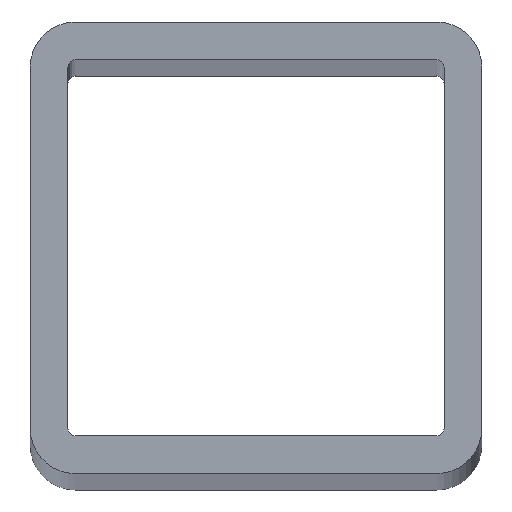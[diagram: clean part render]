
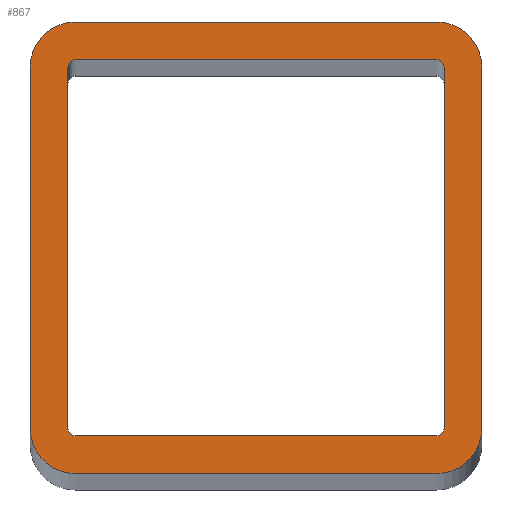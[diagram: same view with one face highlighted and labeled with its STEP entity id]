
A CAD part, top view. The second image highlights one B-rep face of the part: STEP entity #867.
In plain terms, the highlighted planar face has unit normal (0, 0, 1).
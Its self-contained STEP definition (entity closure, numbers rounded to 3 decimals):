
#440=CARTESIAN_POINT('',(-24.,24.,625.));
#441=DIRECTION('',(0.,0.,1.));
#442=DIRECTION('',(0.,1.,0.));
#443=AXIS2_PLACEMENT_3D('',#440,#441,#442);
#448=DIRECTION('',(-1.,0.,0.));
#449=VECTOR('',#448,48.);
#450=CARTESIAN_POINT('',(24.,30.,625.));
#451=LINE('',#450,#449);
#455=CARTESIAN_POINT('',(24.,24.,625.));
#456=DIRECTION('',(0.,0.,1.));
#457=DIRECTION('',(1.,0.,0.));
#458=AXIS2_PLACEMENT_3D('',#455,#456,#457);
#463=DIRECTION('',(0.,1.,0.));
#464=VECTOR('',#463,48.);
#465=CARTESIAN_POINT('',(30.,-24.,625.));
#466=LINE('',#465,#464);
#470=CARTESIAN_POINT('',(24.,-24.,625.));
#471=DIRECTION('',(0.,0.,1.));
#472=DIRECTION('',(0.,-1.,0.));
#473=AXIS2_PLACEMENT_3D('',#470,#471,#472);
#478=DIRECTION('',(1.,0.,0.));
#479=VECTOR('',#478,48.);
#480=CARTESIAN_POINT('',(-24.,-30.,625.));
#481=LINE('',#480,#479);
#485=CARTESIAN_POINT('',(-24.,-24.,625.));
#486=DIRECTION('',(0.,0.,1.));
#487=DIRECTION('',(-1.,0.,0.));
#488=AXIS2_PLACEMENT_3D('',#485,#486,#487);
#493=DIRECTION('',(0.,-1.,0.));
#494=VECTOR('',#493,48.);
#495=CARTESIAN_POINT('',(-30.,24.,625.));
#496=LINE('',#495,#494);
#500=DIRECTION('',(1.,0.,0.));
#501=VECTOR('',#500,48.);
#502=CARTESIAN_POINT('',(-24.,25.,625.));
#503=LINE('',#502,#501);
#507=CARTESIAN_POINT('',(-24.,24.,625.));
#508=DIRECTION('',(0.,0.,-1.));
#509=DIRECTION('',(-1.,0.,0.));
#510=AXIS2_PLACEMENT_3D('',#507,#508,#509);
#515=DIRECTION('',(0.,1.,0.));
#516=VECTOR('',#515,48.);
#517=CARTESIAN_POINT('',(-25.,-24.,625.));
#518=LINE('',#517,#516);
#522=CARTESIAN_POINT('',(-24.,-24.,625.));
#523=DIRECTION('',(0.,0.,-1.));
#524=DIRECTION('',(0.,-1.,0.));
#525=AXIS2_PLACEMENT_3D('',#522,#523,#524);
#530=DIRECTION('',(-1.,0.,0.));
#531=VECTOR('',#530,48.);
#532=CARTESIAN_POINT('',(24.,-25.,625.));
#533=LINE('',#532,#531);
#537=CARTESIAN_POINT('',(24.,-24.,625.));
#538=DIRECTION('',(0.,0.,-1.));
#539=DIRECTION('',(1.,0.,0.));
#540=AXIS2_PLACEMENT_3D('',#537,#538,#539);
#545=DIRECTION('',(0.,-1.,0.));
#546=VECTOR('',#545,48.);
#547=CARTESIAN_POINT('',(25.,24.,625.));
#548=LINE('',#547,#546);
#552=CARTESIAN_POINT('',(24.,24.,625.));
#553=DIRECTION('',(0.,0.,-1.));
#554=DIRECTION('',(0.,1.,0.));
#555=AXIS2_PLACEMENT_3D('',#552,#553,#554);
#648=CARTESIAN_POINT('',(-24.,30.,625.));
#649=CARTESIAN_POINT('',(-30.,24.,625.));
#650=VERTEX_POINT('',#648);
#651=VERTEX_POINT('',#649);
#652=CARTESIAN_POINT('',(-30.,-24.,625.));
#653=VERTEX_POINT('',#652);
#654=CARTESIAN_POINT('',(-24.,-30.,625.));
#655=VERTEX_POINT('',#654);
#656=CARTESIAN_POINT('',(24.,-30.,625.));
#657=VERTEX_POINT('',#656);
#658=CARTESIAN_POINT('',(30.,-24.,625.));
#659=VERTEX_POINT('',#658);
#660=CARTESIAN_POINT('',(30.,24.,625.));
#661=VERTEX_POINT('',#660);
#662=CARTESIAN_POINT('',(24.,30.,625.));
#663=VERTEX_POINT('',#662);
#664=CARTESIAN_POINT('',(-24.,25.,625.));
#665=CARTESIAN_POINT('',(24.,25.,625.));
#666=VERTEX_POINT('',#664);
#667=VERTEX_POINT('',#665);
#668=CARTESIAN_POINT('',(25.,24.,625.));
#669=VERTEX_POINT('',#668);
#670=CARTESIAN_POINT('',(25.,-24.,625.));
#671=VERTEX_POINT('',#670);
#672=CARTESIAN_POINT('',(24.,-25.,625.));
#673=VERTEX_POINT('',#672);
#674=CARTESIAN_POINT('',(-24.,-25.,625.));
#675=VERTEX_POINT('',#674);
#676=CARTESIAN_POINT('',(-25.,-24.,625.));
#677=VERTEX_POINT('',#676);
#678=CARTESIAN_POINT('',(-25.,24.,625.));
#679=VERTEX_POINT('',#678);
#834=CARTESIAN_POINT('',(0.,0.,625.));
#835=DIRECTION('',(0.,0.,1.));
#836=DIRECTION('',(1.,0.,0.));
#837=AXIS2_PLACEMENT_3D('',#834,#835,#836);
#838=PLANE('',#837);
#839=ORIENTED_EDGE('',*,*,#730,.F.);
#840=ORIENTED_EDGE('',*,*,#745,.F.);
#841=ORIENTED_EDGE('',*,*,#759,.F.);
#842=ORIENTED_EDGE('',*,*,#773,.F.);
#843=ORIENTED_EDGE('',*,*,#787,.F.);
#844=ORIENTED_EDGE('',*,*,#801,.F.);
#845=ORIENTED_EDGE('',*,*,#815,.F.);
#846=ORIENTED_EDGE('',*,*,#828,.F.);
#847=EDGE_LOOP('',(#839,#840,#841,#842,#843,#844,#845,#846));
#848=FACE_OUTER_BOUND('',#847,.F.);
#850=ORIENTED_EDGE('',*,*,#849,.F.);
#852=ORIENTED_EDGE('',*,*,#851,.F.);
#854=ORIENTED_EDGE('',*,*,#853,.F.);
#856=ORIENTED_EDGE('',*,*,#855,.F.);
#858=ORIENTED_EDGE('',*,*,#857,.F.);
#860=ORIENTED_EDGE('',*,*,#859,.F.);
#862=ORIENTED_EDGE('',*,*,#861,.F.);
#864=ORIENTED_EDGE('',*,*,#863,.F.);
#865=EDGE_LOOP('',(#850,#852,#854,#856,#858,#860,#862,#864));
#866=FACE_BOUND('',#865,.F.);
#444=CIRCLE('',#443,6.);
#459=CIRCLE('',#458,6.);
#474=CIRCLE('',#473,6.);
#489=CIRCLE('',#488,6.);
#511=CIRCLE('',#510,1.);
#526=CIRCLE('',#525,1.);
#541=CIRCLE('',#540,1.);
#556=CIRCLE('',#555,1.);
#730=EDGE_CURVE('',#650,#651,#444,.T.);
#745=EDGE_CURVE('',#663,#650,#451,.T.);
#759=EDGE_CURVE('',#661,#663,#459,.T.);
#773=EDGE_CURVE('',#659,#661,#466,.T.);
#787=EDGE_CURVE('',#657,#659,#474,.T.);
#801=EDGE_CURVE('',#655,#657,#481,.T.);
#815=EDGE_CURVE('',#653,#655,#489,.T.);
#828=EDGE_CURVE('',#651,#653,#496,.T.);
#849=EDGE_CURVE('',#666,#667,#503,.T.);
#851=EDGE_CURVE('',#679,#666,#511,.T.);
#853=EDGE_CURVE('',#677,#679,#518,.T.);
#855=EDGE_CURVE('',#675,#677,#526,.T.);
#857=EDGE_CURVE('',#673,#675,#533,.T.);
#859=EDGE_CURVE('',#671,#673,#541,.T.);
#861=EDGE_CURVE('',#669,#671,#548,.T.);
#863=EDGE_CURVE('',#667,#669,#556,.T.);
#867=ADVANCED_FACE('',(#848,#866),#838,.T.);
